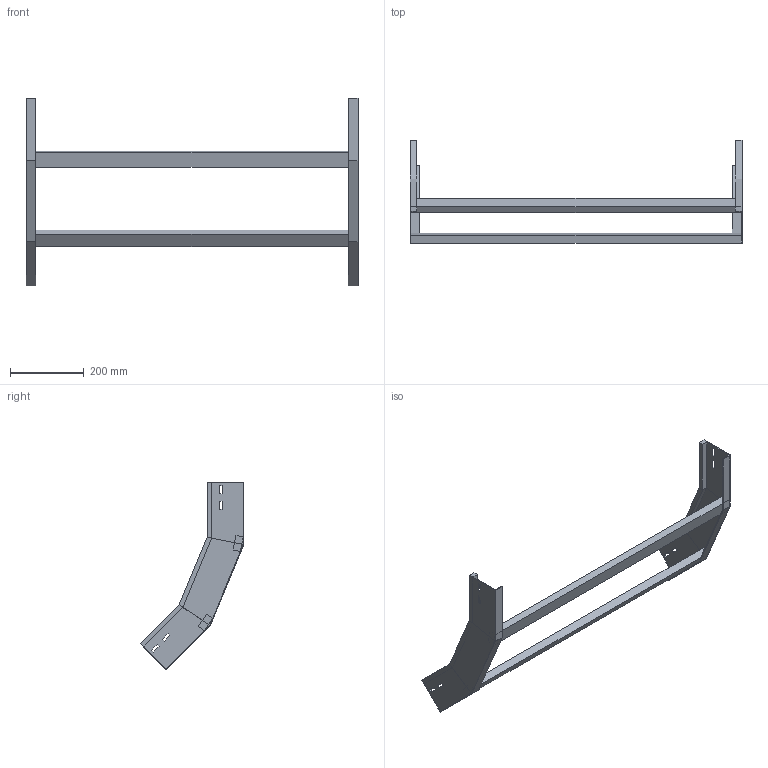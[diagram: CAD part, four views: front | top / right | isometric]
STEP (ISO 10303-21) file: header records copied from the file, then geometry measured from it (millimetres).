
FILE_DESCRIPTION (( 'STEP AP214' ), '1' );
FILE_NAME ('A2X31B5D900XX.step', '2025-03-20T10:04:50', ( '' ), ( '' ), 'SwSTEP 2.0', 'SolidWorks 2023', '' );
FILE_SCHEMA (( 'AUTOMOTIVE_DESIGN' ));
Length unit declared in the file: millimetre
Products named in the file (3): A2X31B5D900XX; TRAVERSINO_900; LONGH.SALITA_45°_H100_R500
Assembly tree (4 placements, depth 2):
  A2X31B5D900XX
    LONGH.SALITA_45°_H100_R500  x2
    TRAVERSINO_900  x2
Bounding box: 900 x 281.75 x 509.5 mm (x, y, z)
Volume: 1914676.9 mm3; surface area: 529422.2 mm2
Topology: 4 solids, 4 shells, 96 faces, 232 edges, 144 vertices
Faces by surface type: plane 96
Entity records: 1472 total; most frequent: CARTESIAN_POINT 243, ORIENTED_EDGE 232, DIRECTION 226, LINE 116, EDGE_CURVE 116, VECTOR 116, VERTEX_POINT 72, EDGE_LOOP 56
